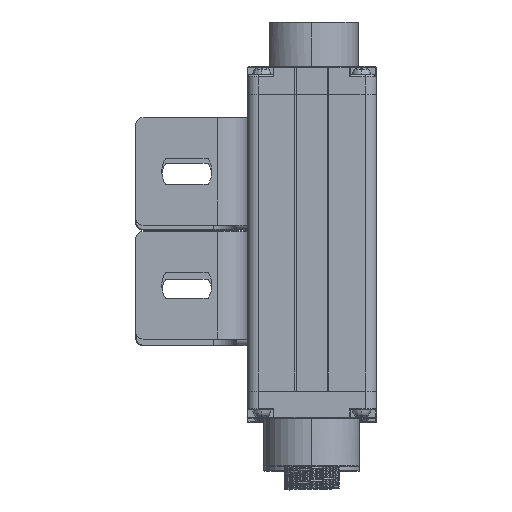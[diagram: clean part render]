
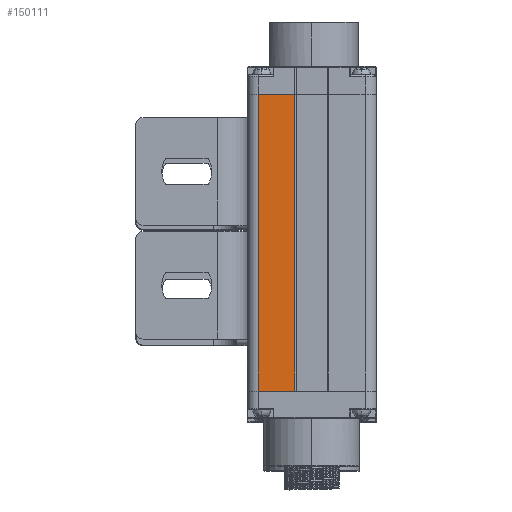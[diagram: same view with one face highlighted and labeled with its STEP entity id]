
A CAD part, top view. The second image highlights one B-rep face of the part: STEP entity #150111.
In plain terms, the highlighted planar face has unit normal (0, 0.001, 1).
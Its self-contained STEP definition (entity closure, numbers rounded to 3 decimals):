
#130 = DIRECTION ( 'NONE',  ( 1., 0., 0. ) ) ;
#3535 = CARTESIAN_POINT ( 'NONE',  ( 0., 80., 25.075 ) ) ;
#22925 = CARTESIAN_POINT ( 'NONE',  ( -15.91, 0., 25.075 ) ) ;
#24920 = VECTOR ( 'NONE', #130, 1000. ) ;
#30692 = VECTOR ( 'NONE', #131648, 1000. ) ;
#35989 = LINE ( 'NONE', #139497, #144485 ) ;
#36537 = EDGE_CURVE ( 'NONE', #85901, #175557, #35989, .T. ) ;
#40767 = ORIENTED_EDGE ( 'NONE', *, *, #75859, .F. ) ;
#43427 = ORIENTED_EDGE ( 'NONE', *, *, #171547, .T. ) ;
#44666 = EDGE_LOOP ( 'NONE', ( #160914, #43427, #51362, #40767 ) ) ;
#45047 = CARTESIAN_POINT ( 'NONE',  ( -15.91, 0., 25.075 ) ) ;
#49305 = CARTESIAN_POINT ( 'NONE',  ( -6.025, 0., 25.075 ) ) ;
#51362 = ORIENTED_EDGE ( 'NONE', *, *, #169424, .T. ) ;
#58400 = DIRECTION ( 'NONE',  ( 0., 1., 0. ) ) ;
#67103 = DIRECTION ( 'NONE',  ( 0., -1., 0. ) ) ;
#68309 = CARTESIAN_POINT ( 'NONE',  ( -15.91, 80., 25.075 ) ) ;
#68370 = LINE ( 'NONE', #3535, #30692 ) ;
#74116 = PLANE ( 'NONE',  #93851 ) ;
#75859 = EDGE_CURVE ( 'NONE', #85901, #129890, #68370, .T. ) ;
#84762 = VECTOR ( 'NONE', #58400, 1000. ) ;
#85630 = FACE_OUTER_BOUND ( 'NONE', #44666, .T. ) ;
#85901 = VERTEX_POINT ( 'NONE', #68309 ) ;
#93851 = AXIS2_PLACEMENT_3D ( 'NONE', #45047, #172577, #157707 ) ;
#98097 = LINE ( 'NONE', #115328, #84762 ) ;
#104687 = CARTESIAN_POINT ( 'NONE',  ( -6.025, 80., 25.075 ) ) ;
#114332 = VERTEX_POINT ( 'NONE', #49305 ) ;
#115328 = CARTESIAN_POINT ( 'NONE',  ( -6.025, 0., 25.075 ) ) ;
#122073 = CARTESIAN_POINT ( 'NONE',  ( -15.91, 0., 25.075 ) ) ;
#129890 = VERTEX_POINT ( 'NONE', #104687 ) ;
#131648 = DIRECTION ( 'NONE',  ( 1., 0., 0. ) ) ;
#139497 = CARTESIAN_POINT ( 'NONE',  ( -15.91, 0., 25.075 ) ) ;
#144485 = VECTOR ( 'NONE', #67103, 1000. ) ;
#150111 = ADVANCED_FACE ( 'NONE', ( #85630 ), #74116, .T. ) ;
#157707 = DIRECTION ( 'NONE',  ( 1., 0., 0. ) ) ;
#160914 = ORIENTED_EDGE ( 'NONE', *, *, #36537, .T. ) ;
#169424 = EDGE_CURVE ( 'NONE', #114332, #129890, #98097, .T. ) ;
#171547 = EDGE_CURVE ( 'NONE', #175557, #114332, #179996, .T. ) ;
#172577 = DIRECTION ( 'NONE',  ( 0., 0., 1. ) ) ;
#175557 = VERTEX_POINT ( 'NONE', #22925 ) ;
#179996 = LINE ( 'NONE', #122073, #24920 ) ;
